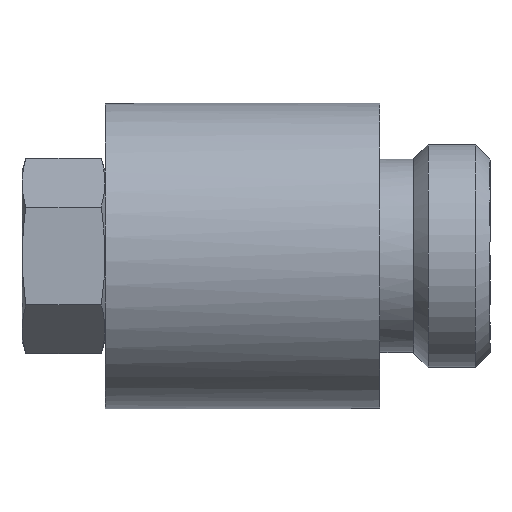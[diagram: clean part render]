
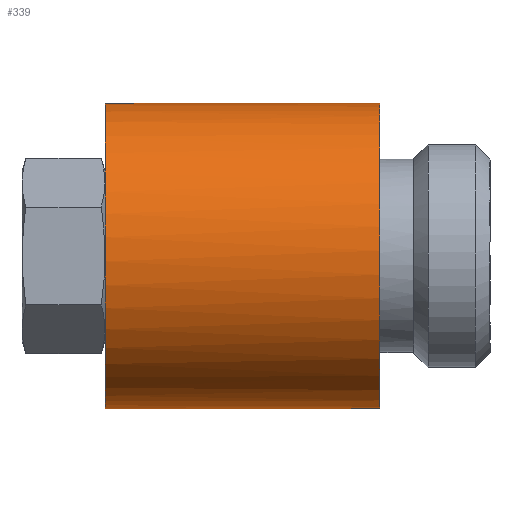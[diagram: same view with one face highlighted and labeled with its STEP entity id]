
A CAD part, left-side view. The second image highlights one B-rep face of the part: STEP entity #339.
In plain terms, the highlighted free-form (B-spline) face has degree [1, 3] with [2, 4] control points.
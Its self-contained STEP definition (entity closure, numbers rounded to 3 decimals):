
#59 = CARTESIAN_POINT ( 'NONE',  ( 0., 0., 9. ) ) ;
#74 = CARTESIAN_POINT ( 'NONE',  ( 0., 16.2, -9. ) ) ;
#83 = VERTEX_POINT ( 'NONE', #685 ) ;
#183 = EDGE_CURVE ( 'NONE', #83, #763, #261, .T. ) ;
#202 = CARTESIAN_POINT ( 'NONE',  ( -18., 16.2, -9. ) ) ;
#208 = FACE_OUTER_BOUND ( 'NONE', #1202, .T. ) ;
#210 = ORIENTED_EDGE ( 'NONE', *, *, #1168, .T. ) ;
#218 = CARTESIAN_POINT ( 'NONE',  ( -18., 16.2, 9. ) ) ;
#261 =( BOUNDED_CURVE ( )  B_SPLINE_CURVE ( 3, ( #1166, #336, #202, #743 ),
 .UNSPECIFIED., .F., .T. ) 
 B_SPLINE_CURVE_WITH_KNOTS ( ( 4, 4 ),
 ( 0.5, 1. ),
 .UNSPECIFIED. ) 
 CURVE ( )  GEOMETRIC_REPRESENTATION_ITEM ( )  RATIONAL_B_SPLINE_CURVE ( ( 1., 0.333, 0.333, 1. ) ) 
 REPRESENTATION_ITEM ( '' )  );
#336 = CARTESIAN_POINT ( 'NONE',  ( -18., 16.2, 9. ) ) ;
#339 = ADVANCED_FACE ( 'NONE', ( #208 ), #757, .T. ) ;
#426 = EDGE_CURVE ( 'NONE', #646, #763, #1606, .T. ) ;
#475 = VERTEX_POINT ( 'NONE', #59 ) ;
#591 = CARTESIAN_POINT ( 'NONE',  ( 0., 0., 9. ) ) ;
#602 = CARTESIAN_POINT ( 'NONE',  ( 0., 0., 9. ) ) ;
#617 = CARTESIAN_POINT ( 'NONE',  ( 0., 16.2, 9. ) ) ;
#646 = VERTEX_POINT ( 'NONE', #1083 ) ;
#685 = CARTESIAN_POINT ( 'NONE',  ( 0., 16.2, 9. ) ) ;
#743 = CARTESIAN_POINT ( 'NONE',  ( 0., 16.2, -9. ) ) ;
#757 =( BOUNDED_SURFACE ( )  B_SPLINE_SURFACE ( 1, 3, ( 
 ( #591, #1262, #1686, #862 ),
 ( #617, #218, #761, #74 ) ),
 .UNSPECIFIED., .F., .F., .F. ) 
 B_SPLINE_SURFACE_WITH_KNOTS ( ( 2, 2 ),
 ( 4, 4 ),
 ( 0., 1. ),
 ( 0., 1. ),
 .UNSPECIFIED. ) 
 GEOMETRIC_REPRESENTATION_ITEM ( )  RATIONAL_B_SPLINE_SURFACE ( (
 ( 1., 0.333, 0.333, 1.),
 ( 1., 0.333, 0.333, 1.) ) ) 
 REPRESENTATION_ITEM ( '' )  SURFACE ( )  );
#761 = CARTESIAN_POINT ( 'NONE',  ( -18., 16.2, -9. ) ) ;
#763 = VERTEX_POINT ( 'NONE', #975 ) ;
#768 = CARTESIAN_POINT ( 'NONE',  ( 0., 0., -9. ) ) ;
#809 = ORIENTED_EDGE ( 'NONE', *, *, #183, .T. ) ;
#862 = CARTESIAN_POINT ( 'NONE',  ( 0., 0., -9. ) ) ;
#901 = ORIENTED_EDGE ( 'NONE', *, *, #960, .T. ) ;
#916 = CARTESIAN_POINT ( 'NONE',  ( 0., 16.2, -9. ) ) ;
#931 =( BOUNDED_CURVE ( )  B_SPLINE_CURVE ( 3, ( #1649, #1405, #1129, #602 ),
 .UNSPECIFIED., .F., .T. ) 
 B_SPLINE_CURVE_WITH_KNOTS ( ( 4, 4 ),
 ( 0., 0.5 ),
 .UNSPECIFIED. ) 
 CURVE ( )  GEOMETRIC_REPRESENTATION_ITEM ( )  RATIONAL_B_SPLINE_CURVE ( ( 1., 0.333, 0.333, 1. ) ) 
 REPRESENTATION_ITEM ( '' )  );
#945 = CARTESIAN_POINT ( 'NONE',  ( 0., 16.2, 9. ) ) ;
#960 = EDGE_CURVE ( 'NONE', #475, #83, #1484, .T. ) ;
#975 = CARTESIAN_POINT ( 'NONE',  ( 0., 16.2, -9. ) ) ;
#1083 = CARTESIAN_POINT ( 'NONE',  ( 0., 0., -9. ) ) ;
#1129 = CARTESIAN_POINT ( 'NONE',  ( -18., 0., 9. ) ) ;
#1166 = CARTESIAN_POINT ( 'NONE',  ( 0., 16.2, 9. ) ) ;
#1168 = EDGE_CURVE ( 'NONE', #646, #475, #931, .T. ) ;
#1202 = EDGE_LOOP ( 'NONE', ( #210, #901, #809, #1423 ) ) ;
#1262 = CARTESIAN_POINT ( 'NONE',  ( -18., 0., 9. ) ) ;
#1405 = CARTESIAN_POINT ( 'NONE',  ( -18., 0., -9. ) ) ;
#1423 = ORIENTED_EDGE ( 'NONE', *, *, #426, .F. ) ;
#1463 = CARTESIAN_POINT ( 'NONE',  ( 0., 0., 9. ) ) ;
#1484 = B_SPLINE_CURVE_WITH_KNOTS ( 'NONE', 1,
 ( #1463, #945 ),
 .UNSPECIFIED., .F., .F.,
 ( 2, 2 ),
 ( 0., 1. ),
 .UNSPECIFIED. ) ;
#1606 = B_SPLINE_CURVE_WITH_KNOTS ( 'NONE', 1,
 ( #768, #916 ),
 .UNSPECIFIED., .F., .F.,
 ( 2, 2 ),
 ( 0., 1. ),
 .UNSPECIFIED. ) ;
#1649 = CARTESIAN_POINT ( 'NONE',  ( 0., 0., -9. ) ) ;
#1686 = CARTESIAN_POINT ( 'NONE',  ( -18., 0., -9. ) ) ;
